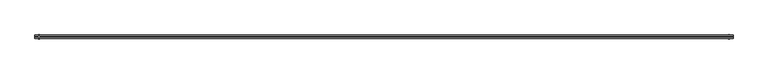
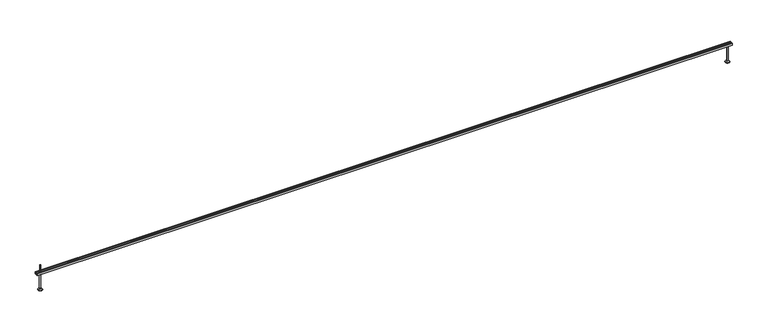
"""IFC4 building model written with IfcOpenShell, lengths in millimetres: fastener geometry, JXA(-PC) JORDAHL® toothed channels : JXA(-PC) L=6000 mm."""

from ifc_helpers import new_model, si_unit, frame, origin, place, context, project, spatial, polyline, circle_curve, outline, extrude, source, transform, mapped, element, save
from ifc_brep_helpers import plane_surface, cylinder_surface, revolved_surface, advanced_brep


def fastener_dfc049ad(model_context):
    return source(origin(), model_context, "Body", "SolidModel", [
        advanced_brep(
        [(41.5, 10.5, -5.0), (41.5, -10.5, -5.0), (41.5, -10.5, -12.0), (41.5, 10.5, -12.0), (28.5, 10.5, -5.0), (28.5, 10.5, -12.0), (28.5, -10.5, -12.0), (28.5, -10.5, -5.0), (40.0, 0.0, -5.0), (30.0, 0.0, -5.0), (30.0, 0.0, 55.0), (40.0, 0.0, 55.0)],
        [
            (0, 1),
            (1, 2),
            (2, 3),
            (3, 0),
            (4, 5),
            (5, 6),
            (6, 7),
            (7, 4),
            (0, 4),
            (7, 1),
            (8, 9, circle_curve(frame((35.0, 0.0, -5.0), z_axis=(0.0, 0.0, -1.0), x_axis=(1.0, 0.0, 0.0)), 5.0)),
            (9, 8, circle_curve(frame((35.0, 0.0, -5.0), z_axis=(0.0, 0.0, -1.0), x_axis=(1.0, 0.0, 0.0)), 5.0)),
            (6, 2),
            (5, 3),
            (10, 11, circle_curve(frame((35.0, 0.0, 55.0), z_axis=(0.0, 0.0, 1.0), x_axis=(1.0, 0.0, 0.0)), 5.0)),
            (11, 10, circle_curve(frame((35.0, 0.0, 55.0), z_axis=(0.0, 0.0, 1.0), x_axis=(1.0, 0.0, 0.0)), 5.0)),
            (10, 9),
            (8, 11),
        ],
        [
            plane_surface(frame((41.5, -10.5, -5.0), z_axis=(1.0, 0.0, 0.0), x_axis=(0.0, -1.0, 0.0))),
            plane_surface(frame((28.5, -10.5, -5.0), z_axis=(-1.0, 0.0, 0.0), x_axis=(0.0, 1.0, 0.0))),
            plane_surface(frame((41.5, 10.5, -5.0), z_axis=(0.0, 0.0, 1.0), x_axis=(-1.0, 0.0, 0.0))),
            plane_surface(frame((41.5, -10.5, -5.0), z_axis=(0.0, -1.0, 0.0), x_axis=(-1.0, 0.0, 0.0))),
            plane_surface(frame((41.5, -10.5, -12.0), z_axis=(0.0, 0.0, -1.0), x_axis=(-1.0, 0.0, 0.0))),
            plane_surface(frame((41.5, 10.5, -12.0), z_axis=(0.0, 1.0, 0.0), x_axis=(-1.0, 0.0, 0.0))),
            plane_surface(frame((40.0, 0.0, 55.0), z_axis=(0.0, 0.0, 1.0), x_axis=(0.0, 1.0, 0.0))),
            cylinder_surface(frame((35.0, 0.0, -5.0), z_axis=(0.0, 0.0, 1.0), x_axis=(1.0, 0.0, 0.0)), 5.0),
        ],
        [
            (0, [[1, 2, 3, 4]]),
            (1, [[5, 6, 7, 8]]),
            (2, [[-1, 9, -8, 10], [11, 12]]),
            (3, [[-2, -10, -7, 13]]),
            (4, [[-3, -13, -6, 14]]),
            (5, [[-4, -14, -5, -9]]),
            (6, [[15, 16]]),
            (7, [[-15, 17, -11, 18]]),
            (7, [[-16, -18, -12, -17]]),
        ],
    ),
        advanced_brep(
        [(5965.0, 0.0, -20.0), (5979.5, 0.0, -20.0), (5950.5, 0.0, -20.0), (5947.0, 0.0, -166.0), (5983.0, 0.0, -166.0), (5965.0, 0.0, -166.0), (5947.0, 0.0, -164.0), (5983.0, 0.0, -164.0), (5959.0, 0.0, -157.0717968), (5971.0, 0.0, -157.0717968), (5959.0, 0.0, -22.5), (5971.0, 0.0, -22.5)],
        [
            (0, 1),
            (1, 2, circle_curve(frame((5965.0, 0.0, -20.0), z_axis=(0.0, 0.0, 1.0), x_axis=(1.0, 0.0, 0.0)), 14.5)),
            (2, 0),
            (2, 1, circle_curve(frame((5965.0, 0.0, -20.0), z_axis=(0.0, 0.0, 1.0), x_axis=(1.0, 0.0, 0.0)), 14.5)),
            (3, 4, circle_curve(frame((5965.0, 0.0, -166.0), z_axis=(0.0, 0.0, -1.0), x_axis=(1.0, 0.0, 0.0)), 18.0)),
            (4, 5),
            (5, 3),
            (4, 3, circle_curve(frame((5965.0, 0.0, -166.0), z_axis=(0.0, 0.0, -1.0), x_axis=(1.0, 0.0, 0.0)), 18.0)),
            (6, 7, circle_curve(frame((5965.0, 0.0, -164.0), z_axis=(0.0, 0.0, -1.0), x_axis=(1.0, 0.0, 0.0)), 18.0)),
            (7, 4),
            (3, 6),
            (7, 6, circle_curve(frame((5965.0, 0.0, -164.0), z_axis=(0.0, 0.0, -1.0), x_axis=(1.0, 0.0, 0.0)), 18.0)),
            (8, 9, circle_curve(frame((5965.0, 0.0, -157.0717968), z_axis=(0.0, 0.0, -1.0), x_axis=(1.0, 0.0, 0.0)), 6.0)),
            (9, 7),
            (6, 8),
            (9, 8, circle_curve(frame((5965.0, 0.0, -157.0717968), z_axis=(0.0, 0.0, -1.0), x_axis=(1.0, 0.0, 0.0)), 6.0)),
            (10, 11, circle_curve(frame((5965.0, 0.0, -22.5), z_axis=(0.0, 0.0, -1.0), x_axis=(1.0, 0.0, 0.0)), 6.0)),
            (11, 9),
            (8, 10),
            (11, 10, circle_curve(frame((5965.0, 0.0, -22.5), z_axis=(0.0, 0.0, -1.0), x_axis=(1.0, 0.0, 0.0)), 6.0)),
            (1, 11),
            (10, 2),
        ],
        [
            plane_surface(frame((5965.0, 0.0, -20.0), z_axis=(0.0, 0.0, 1.0), x_axis=(1.0, 0.0, 0.0))),
            plane_surface(frame((5965.0, 0.0, -166.0), z_axis=(0.0, 0.0, -1.0), x_axis=(1.0, 0.0, 0.0))),
            cylinder_surface(frame((5965.0, 0.0, 2214.3150031), z_axis=(0.0, 0.0, 1.0), x_axis=(1.0, 0.0, 0.0)), 18.0),
            revolved_surface(polyline([(5983.0, 0.0, -164.0), (5971.0, 0.0, -157.0717968)]), (5965.0, 0.0, 2214.3150031), (0.0, 0.0, 1.0)),
            cylinder_surface(frame((5965.0, 0.0, 2214.3150031), z_axis=(0.0, 0.0, 1.0), x_axis=(1.0, 0.0, 0.0)), 6.0),
            revolved_surface(polyline([(5971.0, 0.0, -22.5), (5979.5, 0.0, -20.0)]), (5965.0, 0.0, 2214.3150031), (0.0, 0.0, 1.0)),
        ],
        [
            (0, [[1, 2, 3]]),
            (0, [[-3, 4, -1]]),
            (1, [[5, 6, 7]]),
            (1, [[8, -7, -6]]),
            (2, [[9, 10, -5, 11]]),
            (2, [[12, -11, -8, -10]]),
            (3, [[13, 14, -9, 15]]),
            (3, [[16, -15, -12, -14]]),
            (4, [[17, 18, -13, 19]]),
            (4, [[20, -19, -16, -18]]),
            (5, [[-2, 21, -17, 22]]),
            (5, [[-4, -22, -20, -21]]),
        ],
    ),
        advanced_brep(
        [(35.0, 0.0, -20.0), (49.5, 0.0, -20.0), (20.5, 0.0, -20.0), (17.0, 0.0, -166.0), (53.0, 0.0, -166.0), (35.0, 0.0, -166.0), (17.0, 0.0, -164.0), (53.0, 0.0, -164.0), (29.0, 0.0, -157.0717968), (41.0, 0.0, -157.0717968), (29.0, 0.0, -22.5), (41.0, 0.0, -22.5)],
        [
            (0, 1),
            (1, 2, circle_curve(frame((35.0, 0.0, -20.0), z_axis=(0.0, 0.0, 1.0), x_axis=(1.0, 0.0, 0.0)), 14.5)),
            (2, 0),
            (2, 1, circle_curve(frame((35.0, 0.0, -20.0), z_axis=(0.0, 0.0, 1.0), x_axis=(1.0, 0.0, 0.0)), 14.5)),
            (3, 4, circle_curve(frame((35.0, 0.0, -166.0), z_axis=(0.0, 0.0, -1.0), x_axis=(1.0, 0.0, 0.0)), 18.0)),
            (4, 5),
            (5, 3),
            (4, 3, circle_curve(frame((35.0, 0.0, -166.0), z_axis=(0.0, 0.0, -1.0), x_axis=(1.0, 0.0, 0.0)), 18.0)),
            (6, 7, circle_curve(frame((35.0, 0.0, -164.0), z_axis=(0.0, 0.0, -1.0), x_axis=(1.0, 0.0, 0.0)), 18.0)),
            (7, 4),
            (3, 6),
            (7, 6, circle_curve(frame((35.0, 0.0, -164.0), z_axis=(0.0, 0.0, -1.0), x_axis=(1.0, 0.0, 0.0)), 18.0)),
            (8, 9, circle_curve(frame((35.0, 0.0, -157.0717968), z_axis=(0.0, 0.0, -1.0), x_axis=(1.0, 0.0, 0.0)), 6.0)),
            (9, 7),
            (6, 8),
            (9, 8, circle_curve(frame((35.0, 0.0, -157.0717968), z_axis=(0.0, 0.0, -1.0), x_axis=(1.0, 0.0, 0.0)), 6.0)),
            (10, 11, circle_curve(frame((35.0, 0.0, -22.5), z_axis=(0.0, 0.0, -1.0), x_axis=(1.0, 0.0, 0.0)), 6.0)),
            (11, 9),
            (8, 10),
            (11, 10, circle_curve(frame((35.0, 0.0, -22.5), z_axis=(0.0, 0.0, -1.0), x_axis=(1.0, 0.0, 0.0)), 6.0)),
            (1, 11),
            (10, 2),
        ],
        [
            plane_surface(frame((35.0, 0.0, -20.0), z_axis=(0.0, 0.0, 1.0), x_axis=(1.0, 0.0, 0.0))),
            plane_surface(frame((35.0, 0.0, -166.0), z_axis=(0.0, 0.0, -1.0), x_axis=(1.0, 0.0, 0.0))),
            cylinder_surface(frame((35.0, 0.0, 2214.3150031), z_axis=(0.0, 0.0, 1.0), x_axis=(1.0, 0.0, 0.0)), 18.0),
            revolved_surface(polyline([(53.0, 0.0, -164.0), (41.0, 0.0, -157.0717968)]), (35.0, 0.0, 2214.3150031), (0.0, 0.0, 1.0)),
            cylinder_surface(frame((35.0, 0.0, 2214.3150031), z_axis=(0.0, 0.0, 1.0), x_axis=(1.0, 0.0, 0.0)), 6.0),
            revolved_surface(polyline([(41.0, 0.0, -22.5), (49.5, 0.0, -20.0)]), (35.0, 0.0, 2214.3150031), (0.0, 0.0, 1.0)),
        ],
        [
            (0, [[1, 2, 3]]),
            (0, [[-3, 4, -1]]),
            (1, [[5, 6, 7]]),
            (1, [[8, -7, -6]]),
            (2, [[9, 10, -5, 11]]),
            (2, [[12, -11, -8, -10]]),
            (3, [[13, 14, -9, 15]]),
            (3, [[16, -15, -12, -14]]),
            (4, [[17, 18, -13, 19]]),
            (4, [[20, -19, -16, -18]]),
            (5, [[-2, 21, -17, 22]]),
            (5, [[-4, -22, -20, -21]]),
        ],
    ),
        extrude(outline(polyline([(14.5, 0.0), (14.5, -20.0), (-14.5, -20.0), (-14.5, 0.0), (-7.0, 0.0), (-7.0, -3.0), (-12.0, -3.0), (-12.0, -17.5), (12.0, -17.5), (12.0, -3.0), (7.0, -3.0), (7.0, 0.0), (14.5, 0.0)])), frame((0.0, 0.0, 0.0), z_axis=(1.0, 0.0, 0.0), x_axis=(0.0, 1.0, 0.0)), (0.0, 0.0, 1.0), 6000.0),
    ])


if __name__ == "__main__":
    model = new_model("IFC4")
    model_context = context("Model", 3, world=origin())
    ifc_project = project(units=[si_unit("LENGTHUNIT", "METRE", prefix="MILLI")], contexts=[model_context])
    site = spatial("IfcSite", under=ifc_project)
    building = spatial("IfcBuilding", under=site)
    placement = place(None, origin())
    fastener_shape = fastener_dfc049ad(model_context)
    element("IfcFastener", 1, ObjectType="JXA(-PC) JORDAHL® toothed channels : JXA(-PC) L=6000 mm", at=placement, inside=building, context=model_context, shape_type="MappedRepresentation", body=[
        mapped(fastener_shape, transform((0.0, 0.0, 0.0), x_axis=(1.0, 0.0, 0.0), y_axis=(0.0, 1.0, 0.0), z_axis=(0.0, 0.0, 1.0))),
    ])
    save(model, "model.ifc")
